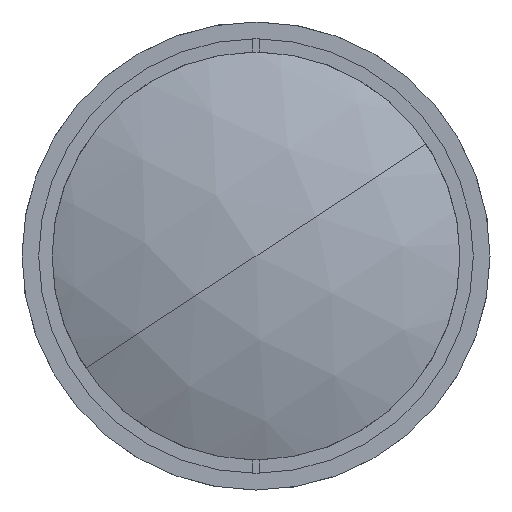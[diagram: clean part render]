
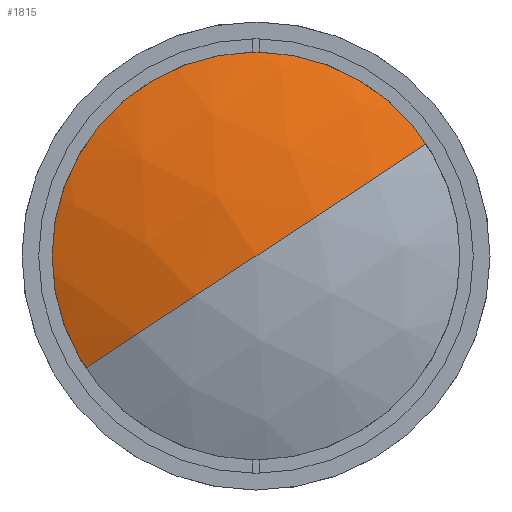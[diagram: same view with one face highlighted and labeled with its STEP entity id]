
A CAD part, left-side view. The second image highlights one B-rep face of the part: STEP entity #1815.
In plain terms, the highlighted spherical face has radius 77.627 mm.
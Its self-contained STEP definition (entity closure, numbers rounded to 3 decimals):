
#48 = DIRECTION ( 'NONE',  ( 0., 0.549, 0.836 ) ) ;
#50 = CARTESIAN_POINT ( 'NONE',  ( 78.627, 0., 0. ) ) ;
#374 = AXIS2_PLACEMENT_3D ( 'NONE', #973, #2743, #3888 ) ;
#440 = ORIENTED_EDGE ( 'NONE', *, *, #3755, .F. ) ;
#762 = CARTESIAN_POINT ( 'NONE',  ( 7.678, 0., 0. ) ) ;
#765 = DIRECTION ( 'NONE',  ( -1., 0., 0. ) ) ;
#871 = SPHERICAL_SURFACE ( 'NONE', #374, 77.627 ) ;
#973 = CARTESIAN_POINT ( 'NONE',  ( 78.627, 0., 0. ) ) ;
#1049 = AXIS2_PLACEMENT_3D ( 'NONE', #50, #48, #1238 ) ;
#1090 = CIRCLE ( 'NONE', #1049, 77.627 ) ;
#1238 = DIRECTION ( 'NONE',  ( 0., -0.836, 0.549 ) ) ;
#1551 = CARTESIAN_POINT ( 'NONE',  ( 7.678, 26.323, -17.302 ) ) ;
#1640 = DIRECTION ( 'NONE',  ( 0., -0.549, -0.836 ) ) ;
#1709 = VERTEX_POINT ( 'NONE', #1551 ) ;
#1733 = VERTEX_POINT ( 'NONE', #2552 ) ;
#1815 = ADVANCED_FACE ( 'NONE', ( #2992 ), #871, .T. ) ;
#2161 = CARTESIAN_POINT ( 'NONE',  ( 78.627, 0., 0. ) ) ;
#2167 = DIRECTION ( 'NONE',  ( 0., 0.836, -0.549 ) ) ;
#2552 = CARTESIAN_POINT ( 'NONE',  ( 7.678, -26.323, 17.302 ) ) ;
#2743 = DIRECTION ( 'NONE',  ( 0., 0.549, 0.836 ) ) ;
#2779 = EDGE_LOOP ( 'NONE', ( #4217, #4512, #440 ) ) ;
#2988 = DIRECTION ( 'NONE',  ( 0., 0.549, 0.836 ) ) ;
#2992 = FACE_OUTER_BOUND ( 'NONE', #2779, .T. ) ;
#3398 = EDGE_CURVE ( 'NONE', #1709, #4562, #1090, .T. ) ;
#3583 = AXIS2_PLACEMENT_3D ( 'NONE', #762, #765, #2988 ) ;
#3755 = EDGE_CURVE ( 'NONE', #1733, #4562, #4248, .T. ) ;
#3888 = DIRECTION ( 'NONE',  ( 0., -0.836, 0.549 ) ) ;
#4217 = ORIENTED_EDGE ( 'NONE', *, *, #4240, .T. ) ;
#4240 = EDGE_CURVE ( 'NONE', #1733, #1709, #4828, .T. ) ;
#4248 = CIRCLE ( 'NONE', #4598, 77.627 ) ;
#4325 = CARTESIAN_POINT ( 'NONE',  ( 1., 0., 0. ) ) ;
#4512 = ORIENTED_EDGE ( 'NONE', *, *, #3398, .T. ) ;
#4562 = VERTEX_POINT ( 'NONE', #4325 ) ;
#4598 = AXIS2_PLACEMENT_3D ( 'NONE', #2161, #1640, #2167 ) ;
#4828 = CIRCLE ( 'NONE', #3583, 31.5 ) ;
